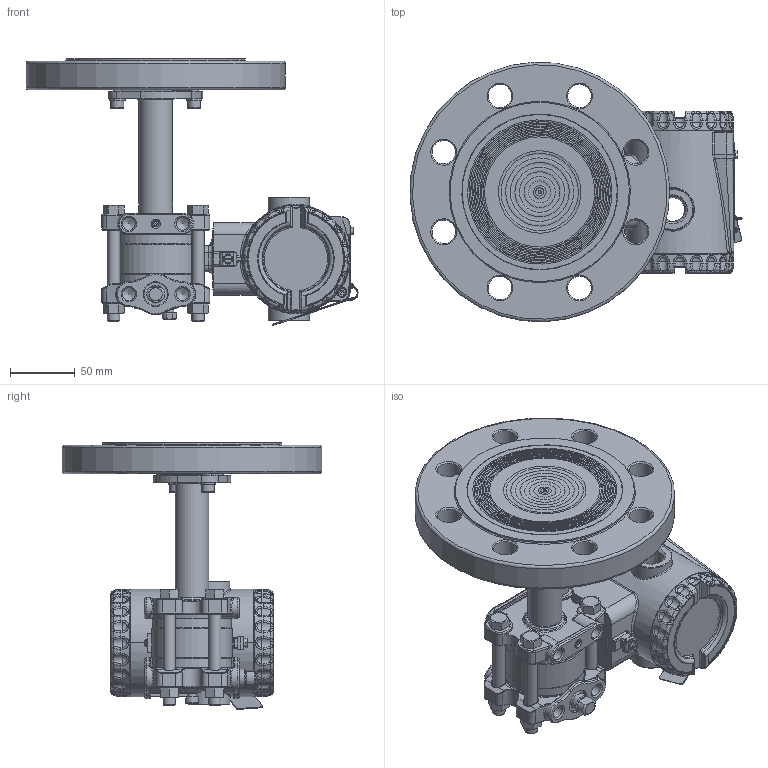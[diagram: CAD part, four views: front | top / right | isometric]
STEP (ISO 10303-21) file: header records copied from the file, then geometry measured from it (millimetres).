
FILE_DESCRIPTION(/* description */ (''),/* implementation_level */ '2;1');
FILE_NAME(/* name */ 'F:\Area\Desenvolvimento_2\Projects\Sensor\projetos\LD400-3d\dimensionais 3D clientes\LD400L\LD400L DN80 PN40 RF ref 1-4NPT purga acima.stp',/* time_stamp */ '2023-02-23T17:21:22-03:00',/* author */ ('inventor02'),/* organization */ (''),/* preprocessor_version */ 'ST-DEVELOPER v17',/* originating_system */ 'Autodesk Inventor 2019',/* authorisation */ '');
FILE_SCHEMA (('CONFIG_CONTROL_DESIGN'));
Products named in the file (38): LD30XL DN80 PN40 RF ref 1-4NPT purga acima; 204-0301-L-DN80 PN40 RF purga acima; nivel fx3 com baixa diferencial 1-4NPT purga acima; involucro fx0-3 apos a usinagem final; flange diferencial std purga; 101-C-7484-01 flange selo nivel VR; 201-A-0504-tubo união teste 1; bujao 1-4NPT; Sangria; Porca 3-8 x 16 UNC; Paraf. 3-8 x 16 UNC; adaptação tubo x flanges 1-1-2 a 4pol; 101-B-0161-anel cortado do tubo - teste1; 101-B-0162-flange fixação tubo; ANSI B18.3.1M - M6x1 x 16; DIN 127 - A 6; 101-C-0136-11; Carcaça 400 com tampas e plaqueta sem letras; 101-D-0845-05 carcaça LD400 sem letras; 101-B-3614-03-tampa 400 sem letras; Tampa visor 400 montada sem letras; 101-B-3612-05 tampa visor 400 sem letras; 101-A-6107; oring 2034; 00034775-0; WHW_250; DIN 915 - M6 x 10; Chapa aterramento externo; 201-A-1771-02 inserto terra recartilhado; AS 1969 - ST4,2; ISO 1207 - M4 x 8; ANSI B18.3.1M - M4x0,7 x 8; Subconjunto plaqueta 400; plaqueta 400 em branco; Parafuso da Plaqueta; Rebite da Plaqueta; 096-A-0169-03; 101-A-0502-01
Assembly tree (47 placements, depth 4):
  LD30XL DN80 PN40 RF ref 1-4NPT purga acima
    204-0301-L-DN80 PN40 RF purga acima
      nivel fx3 com baixa diferencial 1-4NPT purga acima
        involucro fx0-3 apos a usinagem final
        flange diferencial std purga
        101-C-7484-01 flange selo nivel VR
        201-A-0504-tubo união teste 1
        DIN 915 - M6 x 10
        bujao 1-4NPT
        Sangria
        Porca 3-8 x 16 UNC  x4
        Paraf. 3-8 x 16 UNC  x4
      adaptação tubo x flanges 1-1-2 a 4pol
        101-B-0161-anel cortado do tubo - teste1
        101-B-0162-flange fixação tubo
        ANSI B18.3.1M - M6x1 x 16  x2
        DIN 127 - A 6  x2
      101-C-0136-11
    Carcaça 400 com tampas e plaqueta sem letras
      101-D-0845-05 carcaça LD400 sem letras
      101-B-3614-03-tampa 400 sem letras
      Tampa visor 400 montada sem letras
        101-B-3612-05 tampa visor 400 sem letras
        101-A-6107
        oring 2034
        00034775-0
        WHW_250
      DIN 915 - M6 x 10
      Chapa aterramento externo
      201-A-1771-02 inserto terra recartilhado
      AS 1969 - ST4,2
      ISO 1207 - M4 x 8
      ANSI B18.3.1M - M4x0,7 x 8  x2
      Subconjunto plaqueta 400
        plaqueta 400 em branco
        Parafuso da Plaqueta
        Rebite da Plaqueta
        096-A-0169-03
        101-A-0502-01
Bounding box: 255.66 x 199.81 x 205.42 mm (x, y, z)
Volume: 1300398.5 mm3; surface area: 343096.1 mm2
Topology: 41 solids, 41 shells, 2728 faces, 6623 edges, 3963 vertices
Faces by surface type: plane 708, cylinder 660, bspline 605, torus 455, cone 224, sphere 76
Full cylindrical faces by diameter (mm): 2 x4, 2.1 x1, 2.2 x1, 2.459 x3, 2.5 x1, 2.7 x1, 2.8 x1, 3 x4, 3.242 x3, 3.5 x1, 3.571 x1, 4 x5, 4.3 x2, 4.4 x1, 4.917 x4, 5 x1, 5.5 x3, 6 x6, 6.1 x2, 6.2 x1, 6.647 x1, 7 x5, 7.6 x2, 7.798 x4, 8 x1, 9.525 x4, 9.728 x6, 10 x2, 10.5 x8, 10.719 x2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
Entity records: 97407 total; most frequent: CARTESIAN_POINT 36896, ORIENTED_EDGE 12486, DIRECTION 12434, EDGE_CURVE 6243, AXIS2_PLACEMENT_3D 5307, VERTEX_POINT 3769, CIRCLE 3073, EDGE_LOOP 2758
